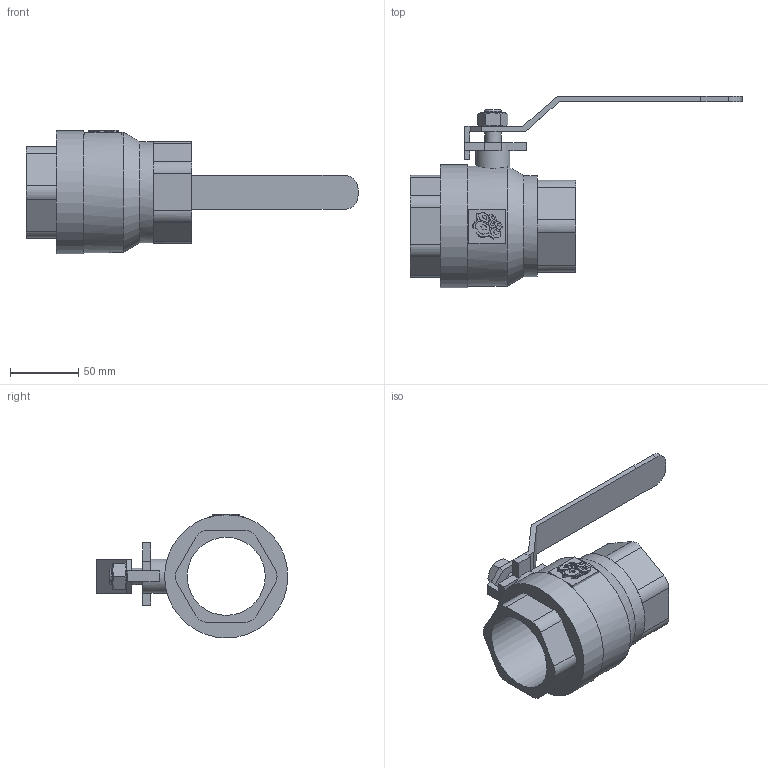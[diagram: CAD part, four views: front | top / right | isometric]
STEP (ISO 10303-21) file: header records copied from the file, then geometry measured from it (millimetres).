
FILE_DESCRIPTION(('STEP AP203'), '1');
FILE_NAME('7014-050-63', '', ('UNSPECIFIED'), ('UNSPECIFIED'), 'C3D Converter', 'C3D Toolkit', '');
FILE_SCHEMA(('CONFIG_CONTROL_DESIGN'));
Length unit declared in the file: millimetre
Bounding box: 242.5 x 140 x 90.5 mm (x, y, z)
Volume: 335112 mm3; surface area: 77406.3 mm2
Topology: 10 solids, 10 shells, 935 faces, 2721 edges, 1810 vertices
Faces by surface type: plane 907, cylinder 24, cone 3, torus 1
Full cylindrical faces by diameter (mm): 12 x2, 25 x1, 57 x1, 74 x1, 88 x1, 90 x1
Entity records: 38702 total; most frequent: CARTESIAN_POINT 6355, ORIENTED_EDGE 5420, DIRECTION 4655, EDGE_CURVE 2710, LINE 2603, VECTOR 2603, VERTEX_POINT 1812, AXIS2_PLACEMENT_3D 1026
